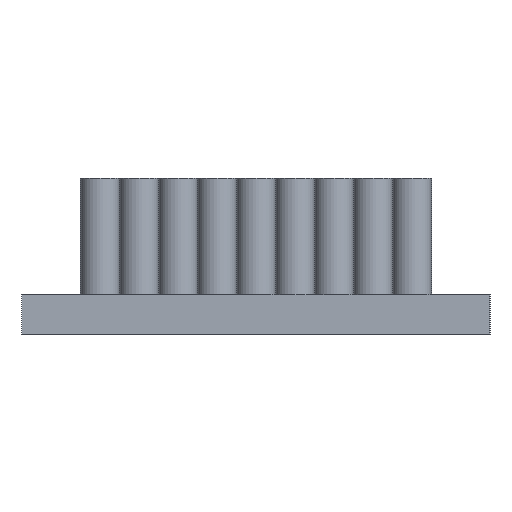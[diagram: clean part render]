
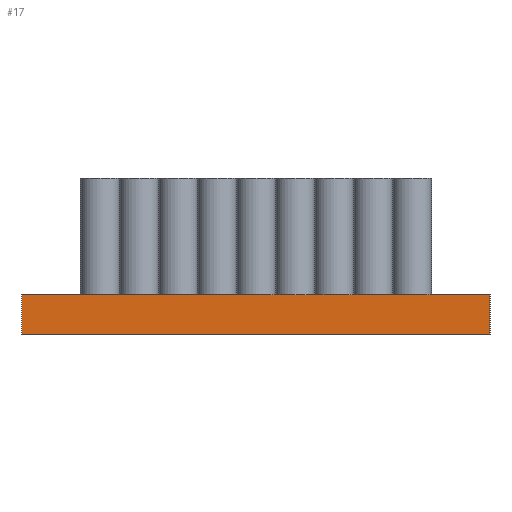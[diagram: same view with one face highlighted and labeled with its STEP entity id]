
A CAD part, left-side view. The second image highlights one B-rep face of the part: STEP entity #17.
In plain terms, the highlighted planar face has unit normal (-1, 0, 0).
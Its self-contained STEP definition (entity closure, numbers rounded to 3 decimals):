
#17 = ADVANCED_FACE('',(#18),#32,.F.);
#18 = FACE_BOUND('',#19,.F.);
#19 = EDGE_LOOP('',(#20,#55,#83,#111));
#20 = ORIENTED_EDGE('',*,*,#21,.F.);
#21 = EDGE_CURVE('',#22,#24,#26,.T.);
#22 = VERTEX_POINT('',#23);
#23 = CARTESIAN_POINT('',(0.,0.,0.));
#24 = VERTEX_POINT('',#25);
#25 = CARTESIAN_POINT('',(0.,0.,2.5));
#26 = SURFACE_CURVE('',#27,(#31,#43),.PCURVE_S1.);
#27 = LINE('',#28,#29);
#28 = CARTESIAN_POINT('',(0.,0.,0.));
#29 = VECTOR('',#30,1.);
#30 = DIRECTION('',(0.,0.,1.));
#31 = PCURVE('',#32,#37);
#32 = PLANE('',#33);
#33 = AXIS2_PLACEMENT_3D('',#34,#35,#36);
#34 = CARTESIAN_POINT('',(0.,0.,0.));
#35 = DIRECTION('',(1.,0.,-0.));
#36 = DIRECTION('',(0.,0.,1.));
#37 = DEFINITIONAL_REPRESENTATION('',(#38),#42);
#38 = LINE('',#39,#40);
#39 = CARTESIAN_POINT('',(0.,0.));
#40 = VECTOR('',#41,1.);
#41 = DIRECTION('',(1.,0.));
#42 = ( GEOMETRIC_REPRESENTATION_CONTEXT(2) 
PARAMETRIC_REPRESENTATION_CONTEXT() REPRESENTATION_CONTEXT('2D SPACE',''
  ) );
#43 = PCURVE('',#44,#49);
#44 = PLANE('',#45);
#45 = AXIS2_PLACEMENT_3D('',#46,#47,#48);
#46 = CARTESIAN_POINT('',(0.,0.,0.));
#47 = DIRECTION('',(-0.,1.,0.));
#48 = DIRECTION('',(0.,0.,1.));
#49 = DEFINITIONAL_REPRESENTATION('',(#50),#54);
#50 = LINE('',#51,#52);
#51 = CARTESIAN_POINT('',(0.,0.));
#52 = VECTOR('',#53,1.);
#53 = DIRECTION('',(1.,0.));
#54 = ( GEOMETRIC_REPRESENTATION_CONTEXT(2) 
PARAMETRIC_REPRESENTATION_CONTEXT() REPRESENTATION_CONTEXT('2D SPACE',''
  ) );
#55 = ORIENTED_EDGE('',*,*,#56,.T.);
#56 = EDGE_CURVE('',#22,#57,#59,.T.);
#57 = VERTEX_POINT('',#58);
#58 = CARTESIAN_POINT('',(0.,30.,0.));
#59 = SURFACE_CURVE('',#60,(#64,#71),.PCURVE_S1.);
#60 = LINE('',#61,#62);
#61 = CARTESIAN_POINT('',(0.,0.,0.));
#62 = VECTOR('',#63,1.);
#63 = DIRECTION('',(-0.,1.,0.));
#64 = PCURVE('',#32,#65);
#65 = DEFINITIONAL_REPRESENTATION('',(#66),#70);
#66 = LINE('',#67,#68);
#67 = CARTESIAN_POINT('',(0.,0.));
#68 = VECTOR('',#69,1.);
#69 = DIRECTION('',(0.,-1.));
#70 = ( GEOMETRIC_REPRESENTATION_CONTEXT(2) 
PARAMETRIC_REPRESENTATION_CONTEXT() REPRESENTATION_CONTEXT('2D SPACE',''
  ) );
#71 = PCURVE('',#72,#77);
#72 = PLANE('',#73);
#73 = AXIS2_PLACEMENT_3D('',#74,#75,#76);
#74 = CARTESIAN_POINT('',(0.,0.,0.));
#75 = DIRECTION('',(0.,0.,1.));
#76 = DIRECTION('',(1.,0.,-0.));
#77 = DEFINITIONAL_REPRESENTATION('',(#78),#82);
#78 = LINE('',#79,#80);
#79 = CARTESIAN_POINT('',(0.,0.));
#80 = VECTOR('',#81,1.);
#81 = DIRECTION('',(0.,1.));
#82 = ( GEOMETRIC_REPRESENTATION_CONTEXT(2) 
PARAMETRIC_REPRESENTATION_CONTEXT() REPRESENTATION_CONTEXT('2D SPACE',''
  ) );
#83 = ORIENTED_EDGE('',*,*,#84,.T.);
#84 = EDGE_CURVE('',#57,#85,#87,.T.);
#85 = VERTEX_POINT('',#86);
#86 = CARTESIAN_POINT('',(0.,30.,2.5));
#87 = SURFACE_CURVE('',#88,(#92,#99),.PCURVE_S1.);
#88 = LINE('',#89,#90);
#89 = CARTESIAN_POINT('',(0.,30.,0.));
#90 = VECTOR('',#91,1.);
#91 = DIRECTION('',(0.,0.,1.));
#92 = PCURVE('',#32,#93);
#93 = DEFINITIONAL_REPRESENTATION('',(#94),#98);
#94 = LINE('',#95,#96);
#95 = CARTESIAN_POINT('',(0.,-30.));
#96 = VECTOR('',#97,1.);
#97 = DIRECTION('',(1.,0.));
#98 = ( GEOMETRIC_REPRESENTATION_CONTEXT(2) 
PARAMETRIC_REPRESENTATION_CONTEXT() REPRESENTATION_CONTEXT('2D SPACE',''
  ) );
#99 = PCURVE('',#100,#105);
#100 = PLANE('',#101);
#101 = AXIS2_PLACEMENT_3D('',#102,#103,#104);
#102 = CARTESIAN_POINT('',(0.,30.,0.));
#103 = DIRECTION('',(-0.,1.,0.));
#104 = DIRECTION('',(0.,0.,1.));
#105 = DEFINITIONAL_REPRESENTATION('',(#106),#110);
#106 = LINE('',#107,#108);
#107 = CARTESIAN_POINT('',(0.,0.));
#108 = VECTOR('',#109,1.);
#109 = DIRECTION('',(1.,0.));
#110 = ( GEOMETRIC_REPRESENTATION_CONTEXT(2) 
PARAMETRIC_REPRESENTATION_CONTEXT() REPRESENTATION_CONTEXT('2D SPACE',''
  ) );
#111 = ORIENTED_EDGE('',*,*,#112,.F.);
#112 = EDGE_CURVE('',#24,#85,#113,.T.);
#113 = SURFACE_CURVE('',#114,(#118,#125),.PCURVE_S1.);
#114 = LINE('',#115,#116);
#115 = CARTESIAN_POINT('',(0.,0.,2.5));
#116 = VECTOR('',#117,1.);
#117 = DIRECTION('',(-0.,1.,0.));
#118 = PCURVE('',#32,#119);
#119 = DEFINITIONAL_REPRESENTATION('',(#120),#124);
#120 = LINE('',#121,#122);
#121 = CARTESIAN_POINT('',(2.5,0.));
#122 = VECTOR('',#123,1.);
#123 = DIRECTION('',(0.,-1.));
#124 = ( GEOMETRIC_REPRESENTATION_CONTEXT(2) 
PARAMETRIC_REPRESENTATION_CONTEXT() REPRESENTATION_CONTEXT('2D SPACE',''
  ) );
#125 = PCURVE('',#126,#131);
#126 = PLANE('',#127);
#127 = AXIS2_PLACEMENT_3D('',#128,#129,#130);
#128 = CARTESIAN_POINT('',(0.,0.,2.5));
#129 = DIRECTION('',(0.,0.,1.));
#130 = DIRECTION('',(1.,0.,-0.));
#131 = DEFINITIONAL_REPRESENTATION('',(#132),#136);
#132 = LINE('',#133,#134);
#133 = CARTESIAN_POINT('',(0.,0.));
#134 = VECTOR('',#135,1.);
#135 = DIRECTION('',(0.,1.));
#136 = ( GEOMETRIC_REPRESENTATION_CONTEXT(2) 
PARAMETRIC_REPRESENTATION_CONTEXT() REPRESENTATION_CONTEXT('2D SPACE',''
  ) );
